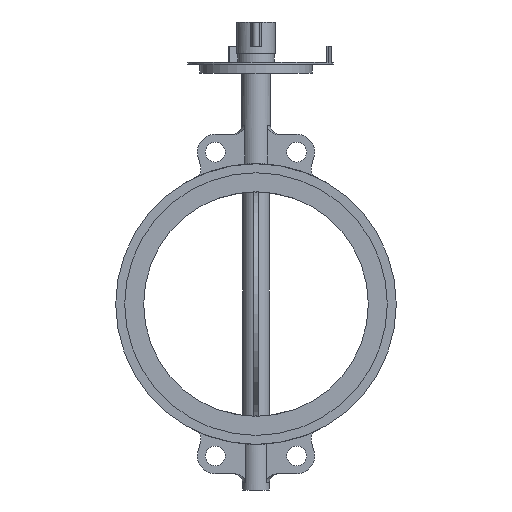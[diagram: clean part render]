
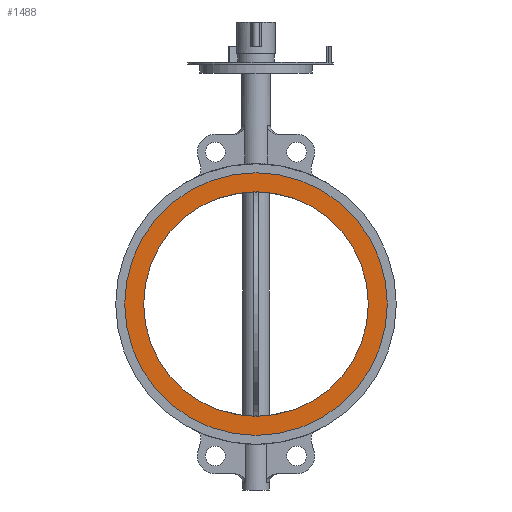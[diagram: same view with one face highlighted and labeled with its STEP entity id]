
A CAD part, left-side view. The second image highlights one B-rep face of the part: STEP entity #1488.
In plain terms, the highlighted planar face has unit normal (-1, 0, 0).
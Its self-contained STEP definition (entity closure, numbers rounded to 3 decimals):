
#1488=ADVANCED_FACE('',(#3012,#3014),#3016,.F.);
#3012=FACE_BOUND('',#3013,.T.);
#3013=EDGE_LOOP('',(#4136));
#3014=FACE_BOUND('',#3015,.T.);
#3015=EDGE_LOOP('',(#4137));
#3016=PLANE('',#3017);
#3017=AXIS2_PLACEMENT_3D('',#3018,#3019,#3020);
#3018=CARTESIAN_POINT('',(-33.,0.,0.));
#3019=DIRECTION('',(1.,0.,0.));
#3020=DIRECTION('',(0.,1.,0.));
#4136=ORIENTED_EDGE('',*,*,#4691,.T.);
#4137=ORIENTED_EDGE('',*,*,#4746,.T.);
#4691=EDGE_CURVE('',#5480,#5480,#5481,.F.);
#4746=EDGE_CURVE('',#5564,#5564,#5565,.T.);
#5480=VERTEX_POINT('',#8183);
#5481=CIRCLE('',#8184,146.2);
#5564=VERTEX_POINT('',#8390);
#5565=CIRCLE('',#8391,125.);
#8183=CARTESIAN_POINT('',(-33.,146.2,0.));
#8184=AXIS2_PLACEMENT_3D('',#8185,#8186,#8187);
#8185=CARTESIAN_POINT('',(-33.,0.,0.));
#8186=DIRECTION('',(1.,0.,0.));
#8187=DIRECTION('',(0.,1.,0.));
#8390=CARTESIAN_POINT('',(-33.,125.,0.));
#8391=AXIS2_PLACEMENT_3D('',#8392,#8393,#8394);
#8392=CARTESIAN_POINT('',(-33.,0.,0.));
#8393=DIRECTION('',(1.,0.,0.));
#8394=DIRECTION('',(0.,1.,0.));
